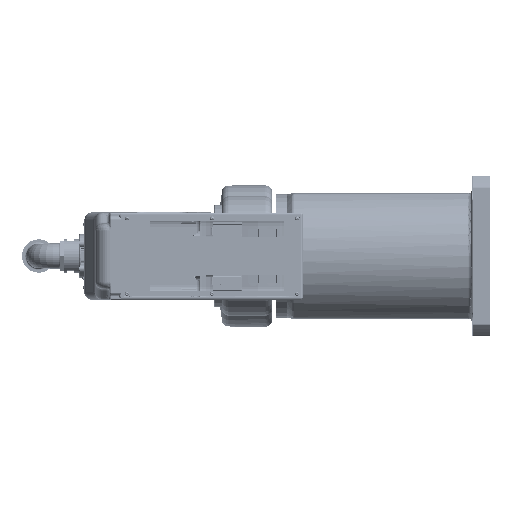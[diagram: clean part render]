
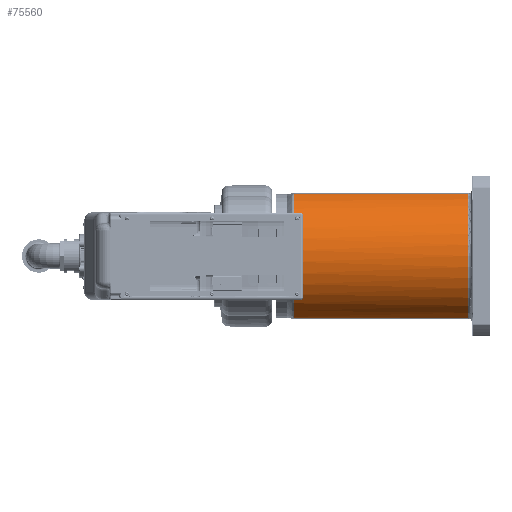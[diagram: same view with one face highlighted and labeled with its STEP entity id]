
A CAD part, left-side view. The second image highlights one B-rep face of the part: STEP entity #75560.
In plain terms, the highlighted cylindrical face has radius 93 mm (diameter 186 mm), a partial arc.
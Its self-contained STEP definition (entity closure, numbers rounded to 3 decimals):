
#899 = FACE_OUTER_BOUND ( 'NONE', #126758, .T. ) ;
#3845 = EDGE_CURVE ( 'NONE', #48659, #81000, #117992, .T. ) ;
#6038 = DIRECTION ( 'NONE',  ( 0., 1., 0. ) ) ;
#11968 = CARTESIAN_POINT ( 'NONE',  ( -39.653, 269.929, 84.125 ) ) ;
#12042 = ORIENTED_EDGE ( 'NONE', *, *, #22233, .T. ) ;
#12967 = CARTESIAN_POINT ( 'NONE',  ( -37.47, 269.472, 85.118 ) ) ;
#14727 = EDGE_CURVE ( 'NONE', #81000, #150094, #142097, .T. ) ;
#22233 = EDGE_CURVE ( 'NONE', #131320, #48659, #106189, .T. ) ;
#22745 = CARTESIAN_POINT ( 'NONE',  ( -40.207, 269.929, -83.859 ) ) ;
#23740 = CARTESIAN_POINT ( 'NONE',  ( -37.469, 269.472, -85.118 ) ) ;
#23822 = CARTESIAN_POINT ( 'NONE',  ( -36.963, 269.199, 85.339 ) ) ;
#24251 = CARTESIAN_POINT ( 'NONE',  ( -38.28, 269.731, -84.757 ) ) ;
#28360 = VECTOR ( 'NONE', #118955, 1000. ) ;
#29181 = DIRECTION ( 'NONE',  ( 1., 0., 0. ) ) ;
#34086 = EDGE_CURVE ( 'NONE', #125980, #129634, #89636, .T. ) ;
#34153 = CARTESIAN_POINT ( 'NONE',  ( -36.963, 30., -85.339 ) ) ;
#35424 = CARTESIAN_POINT ( 'NONE',  ( -36.963, 280., -85.339 ) ) ;
#42390 = DIRECTION ( 'NONE',  ( -1., 0., 0. ) ) ;
#46346 = CARTESIAN_POINT ( 'NONE',  ( -37.209, 269.354, 85.233 ) ) ;
#48659 = VERTEX_POINT ( 'NONE', #92914 ) ;
#50280 = CARTESIAN_POINT ( 'NONE',  ( -36.963, 280., 85.339 ) ) ;
#52010 = AXIS2_PLACEMENT_3D ( 'NONE', #77169, #101248, #136088 ) ;
#54412 = B_SPLINE_CURVE_WITH_KNOTS ( 'NONE', 3,
 ( #23822, #46346, #12967, #94615, #140729, #58199, #11968, #141721 ),
 .UNSPECIFIED., .F., .F.,
 ( 4, 2, 2, 4 ),
 ( 0., 0.001, 0.002, 0.004 ),
 .UNSPECIFIED. ) ;
#54714 = VECTOR ( 'NONE', #108315, 1000. ) ;
#55738 = CIRCLE ( 'NONE', #107502, 93. ) ;
#55753 = CARTESIAN_POINT ( 'NONE',  ( -36.963, 30., 85.339 ) ) ;
#58199 = CARTESIAN_POINT ( 'NONE',  ( -39.101, 269.889, 84.383 ) ) ;
#60408 = ORIENTED_EDGE ( 'NONE', *, *, #14727, .T. ) ;
#69738 = EDGE_CURVE ( 'NONE', #129634, #131320, #54412, .T. ) ;
#70404 = CARTESIAN_POINT ( 'NONE',  ( -37.209, 269.355, -85.232 ) ) ;
#75560 = ADVANCED_FACE ( 'NONE', ( #899 ), #134914, .T. ) ;
#75842 = CARTESIAN_POINT ( 'NONE',  ( 0., 280., 0. ) ) ;
#75856 = ORIENTED_EDGE ( 'NONE', *, *, #69738, .T. ) ;
#75907 = CARTESIAN_POINT ( 'NONE',  ( 0., 30., 0. ) ) ;
#77169 = CARTESIAN_POINT ( 'NONE',  ( 0., 269.929, 0. ) ) ;
#81000 = VERTEX_POINT ( 'NONE', #151795 ) ;
#81231 = EDGE_CURVE ( 'NONE', #150094, #125980, #55738, .T. ) ;
#83235 = CARTESIAN_POINT ( 'NONE',  ( -39.653, 269.929, -84.125 ) ) ;
#89636 = LINE ( 'NONE', #50280, #54714 ) ;
#92914 = CARTESIAN_POINT ( 'NONE',  ( -40.207, 269.929, -83.859 ) ) ;
#94615 = CARTESIAN_POINT ( 'NONE',  ( -38.006, 269.661, 84.88 ) ) ;
#101248 = DIRECTION ( 'NONE',  ( 0., -1., 0. ) ) ;
#104820 = CARTESIAN_POINT ( 'NONE',  ( -39.101, 269.889, -84.383 ) ) ;
#106189 = CIRCLE ( 'NONE', #52010, 93. ) ;
#107502 = AXIS2_PLACEMENT_3D ( 'NONE', #75907, #6038, #29181 ) ;
#108315 = DIRECTION ( 'NONE',  ( 0., 1., 0. ) ) ;
#112345 = CARTESIAN_POINT ( 'NONE',  ( -40.207, 269.929, 83.859 ) ) ;
#116531 = CARTESIAN_POINT ( 'NONE',  ( -38.007, 269.661, -84.88 ) ) ;
#117424 = ORIENTED_EDGE ( 'NONE', *, *, #3845, .T. ) ;
#117992 = B_SPLINE_CURVE_WITH_KNOTS ( 'NONE', 3,
 ( #22745, #83235, #104820, #24251, #116531, #23740, #70404, #140655 ),
 .UNSPECIFIED., .F., .F.,
 ( 4, 2, 2, 4 ),
 ( 0., 0.002, 0.003, 0.004 ),
 .UNSPECIFIED. ) ;
#118955 = DIRECTION ( 'NONE',  ( 0., -1., 0. ) ) ;
#123486 = DIRECTION ( 'NONE',  ( 0., 1., 0. ) ) ;
#125980 = VERTEX_POINT ( 'NONE', #55753 ) ;
#126758 = EDGE_LOOP ( 'NONE', ( #117424, #60408, #151755, #133637, #75856, #12042 ) ) ;
#129634 = VERTEX_POINT ( 'NONE', #144691 ) ;
#131320 = VERTEX_POINT ( 'NONE', #112345 ) ;
#133637 = ORIENTED_EDGE ( 'NONE', *, *, #34086, .T. ) ;
#134914 = CYLINDRICAL_SURFACE ( 'NONE', #137406, 93. ) ;
#136088 = DIRECTION ( 'NONE',  ( -1., 0., 0. ) ) ;
#137406 = AXIS2_PLACEMENT_3D ( 'NONE', #75842, #123486, #42390 ) ;
#140655 = CARTESIAN_POINT ( 'NONE',  ( -36.963, 269.199, -85.339 ) ) ;
#140729 = CARTESIAN_POINT ( 'NONE',  ( -38.28, 269.731, 84.757 ) ) ;
#141721 = CARTESIAN_POINT ( 'NONE',  ( -40.207, 269.929, 83.859 ) ) ;
#142097 = LINE ( 'NONE', #35424, #28360 ) ;
#144691 = CARTESIAN_POINT ( 'NONE',  ( -36.963, 269.199, 85.339 ) ) ;
#150094 = VERTEX_POINT ( 'NONE', #34153 ) ;
#151755 = ORIENTED_EDGE ( 'NONE', *, *, #81231, .T. ) ;
#151795 = CARTESIAN_POINT ( 'NONE',  ( -36.963, 269.199, -85.339 ) ) ;
